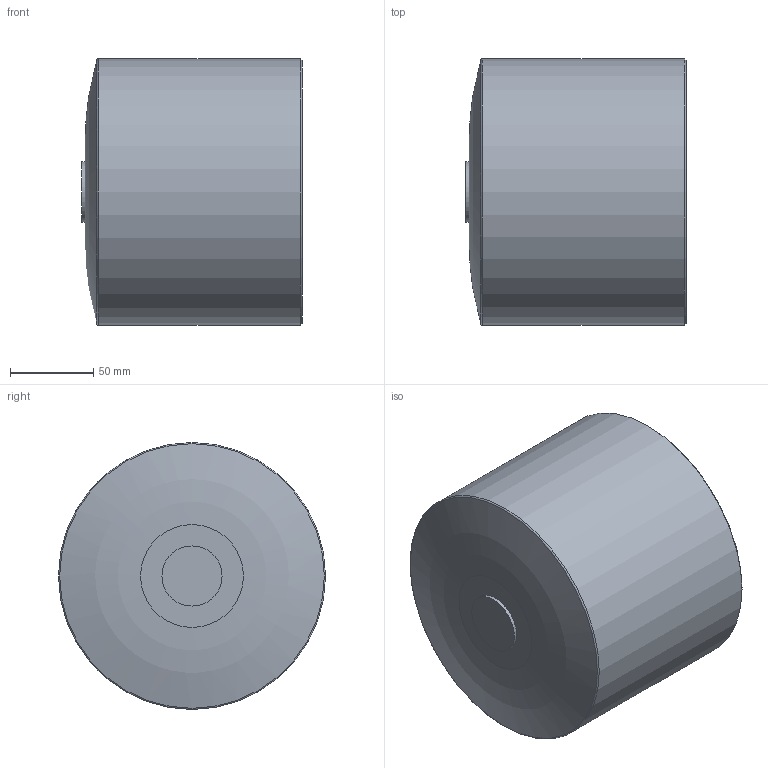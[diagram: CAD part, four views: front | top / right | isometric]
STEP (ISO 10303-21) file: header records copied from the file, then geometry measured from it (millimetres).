
FILE_DESCRIPTION(/* description */ ('Unknown'),/* implementation_level */ '2;1');
FILE_NAME(/* name */ 'CAP160B',/* time_stamp */ '2022-04-02T09:25:07+02:00',/* author */ ('Unknown'),/* organization */ ('Unknown'),/* preprocessor_version */ 'ST-DEVELOPER v18.1',/* originating_system */ 'Solid Edge',/* authorisation */ 'Unknown');
FILE_SCHEMA (('AUTOMOTIVE_DESIGN {1 0 10303 214 3 1 1}'));
Length unit declared in the file: millimetre
Products named in the file (1): CAP160B
Bounding box: 132 x 160 x 160 mm (x, y, z)
Volume: 981025.2 mm3; surface area: 146156.1 mm2
Topology: 1 solids, 1 shells, 14 faces, 24 edges, 14 vertices
Faces by surface type: plane 4, torus 4, cylinder 4, cone 2
Full cylindrical faces by diameter (mm): 36 x1, 130.8 x1, 141 x1, 160 x1
Entity records: 304 total; most frequent: DIRECTION 56, CARTESIAN_POINT 41, AXIS2_PLACEMENT_3D 28, ORIENTED_EDGE 26, EDGE_LOOP 26, FACE_BOUND 26, ADVANCED_FACE 14, EDGE_CURVE 13
